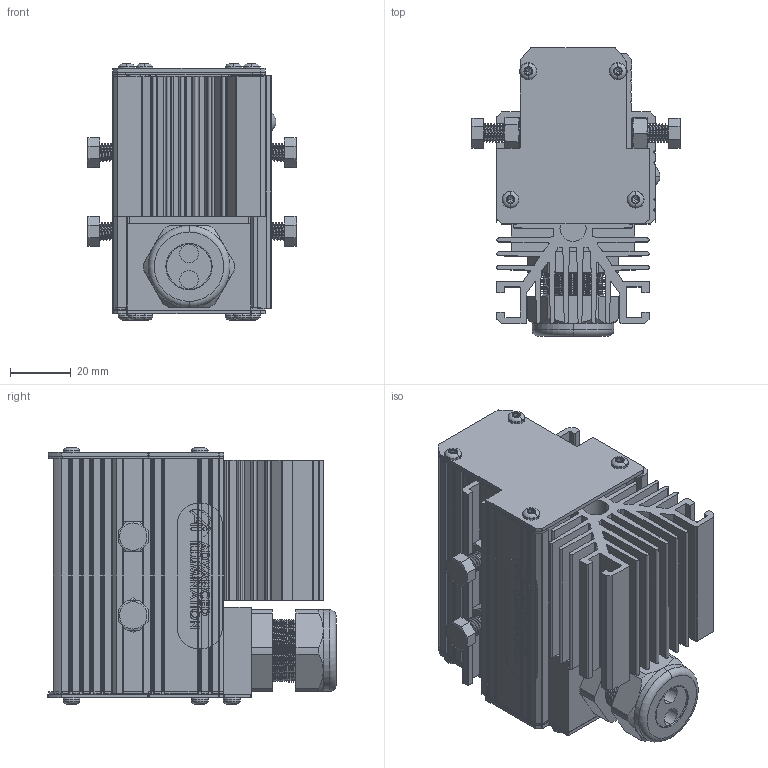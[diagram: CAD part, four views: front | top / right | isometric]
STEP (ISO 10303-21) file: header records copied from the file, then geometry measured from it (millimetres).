
FILE_DESCRIPTION (( 'STEP AP214' ), '1' );
FILE_NAME ('BL138_BL13803.stp', '2021-05-03T14:23:40', ( '' ), ( '' ), 'SwSTEP 2.0', 'SolidWorks 2018', '' );
FILE_SCHEMA (( 'AUTOMOTIVE_DESIGN' ));
Length unit declared in the file: inch
Products named in the file (18): 091053; 091433_Default<As Machined>; HH-M6X12_91460A312; 091170-XX_091170-03; HN-M6_90592A016; 091120,Gasket,Dust,EL138; 091256-XX_091256-03; 091171,Strain Relief,EL137,Dual Cable; 96640A052_91253A106; 091098-XX_091098-03; 091034; 85985K11_Default<As Machined>; 093145_93701A253; 091169,Misc,Strain Relief Block,Large,EL137; 091049; 091030-XX_091030-03; BL138_BL13803; 091433
Assembly tree (36 placements, depth 3):
  BL138_BL13803
    091170-XX_091170-03
    091169,Misc,Strain Relief Block,Large,EL137
    091049
    091120,Gasket,Dust,EL138  x2
    093145_93701A253  x10
    091433  x2
      091433_Default<As Machined>
    091171,Strain Relief,EL137,Dual Cable
    091098-XX_091098-03
    091030-XX_091030-03
    091256-XX_091256-03
    091034
    091053  x2
    HN-M6_90592A016  x4
    HH-M6X12_91460A312  x4
    96640A052_91253A106  x2
    85985K11_Default<As Machined>
Bounding box: 68.96 x 94.84 x 84.38 mm (x, y, z)
Volume: 126367.7 mm3; surface area: 122119.1 mm2
Topology: 36 solids, 36 shells, 3158 faces, 8393 edges, 5303 vertices
Faces by surface type: cylinder 1518, plane 934, cone 498, bspline 128, torus 68, sphere 12
Entity records: 58456 total; most frequent: CARTESIAN_POINT 15829, ORIENTED_EDGE 7878, DIRECTION 7441, EDGE_CURVE 3939, VERTEX_POINT 2548, AXIS2_PLACEMENT_3D 2537, LINE 2367, VECTOR 2367
